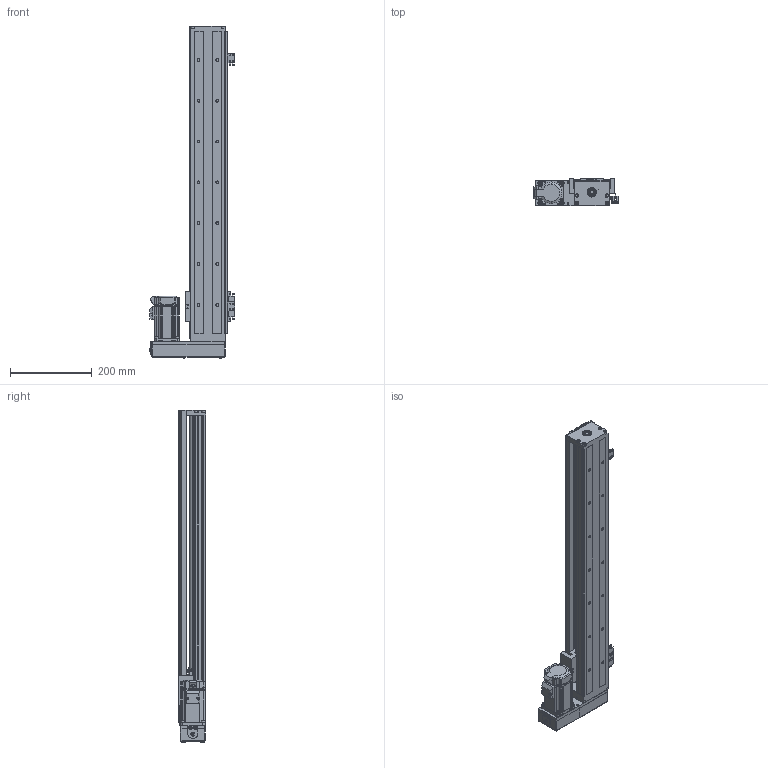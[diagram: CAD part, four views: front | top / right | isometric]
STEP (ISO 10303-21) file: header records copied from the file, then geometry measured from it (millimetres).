
FILE_DESCRIPTION (( 'STEP AP214' ), '1' );
FILE_NAME ('SFKK86-740A1-HL0C.STEP', '2022-05-05T13:02:08', ( '微软用户' ), ( '微软中国' ), 'SwSTEP 2.0', 'SolidWorks 2018', '' );
FILE_SCHEMA (( 'AUTOMOTIVE_DESIGN' ));
Length unit declared in the file: millimetre
Products named in the file (12): 带盖挡光片：KK-86-S2-D1; SFKK86-H0_KKR86-ZT-P-740; SFKK86-LR 憤癹寢耋_740; SFKK86-CU_740; SFKK86-H0-侂狟400W耜蚾; hexagon socket countersunk head screws gb_GB_FASTENER_SCREWS_HSCHS M3X8-N; hexagon socket countersunk head screws gb_GB_FASTENER_SCREWS_HSCHS M4X10-N; SFKK86-740A1-HL0C; SFKK86-A1-C; SX674嫖萇羲壽; 极限轨道与开关固定座组合_740; 开关固定座：KK-674S2-F
Assembly tree (18 placements, depth 3):
  SFKK86-740A1-HL0C
    SFKK86-H0_KKR86-ZT-P-740
    SFKK86-A1-C
    hexagon socket countersunk head screws gb_GB_FASTENER_SCREWS_HSCHS M3X8-N  x2
    SFKK86-CU_740
    hexagon socket countersunk head screws gb_GB_FASTENER_SCREWS_HSCHS M4X10-N  x4
    SFKK86-H0-侂狟400W耜蚾
    极限轨道与开关固定座组合_740
      SFKK86-LR 憤癹寢耋_740
      开关固定座：KK-674S2-F  x2
    SX674嫖萇羲壽  x3
    带盖挡光片：KK-86-S2-D1
Bounding box: 208.5 x 68 x 813.2 mm (x, y, z)
Volume: 1874572 mm3; surface area: 742654 mm2
Topology: 38 solids, 87 shells, 3698 faces, 9849 edges, 6301 vertices
Faces by surface type: plane 1631, cylinder 1490, cone 341, torus 105, bspline 98, sphere 33
Entity records: 137879 total; most frequent: CARTESIAN_POINT 28930, DIRECTION 18568, ORIENTED_EDGE 17782, EDGE_CURVE 9174, AXIS2_PLACEMENT_3D 6693, VERTEX_POINT 5975, LINE 5182, VECTOR 5182
